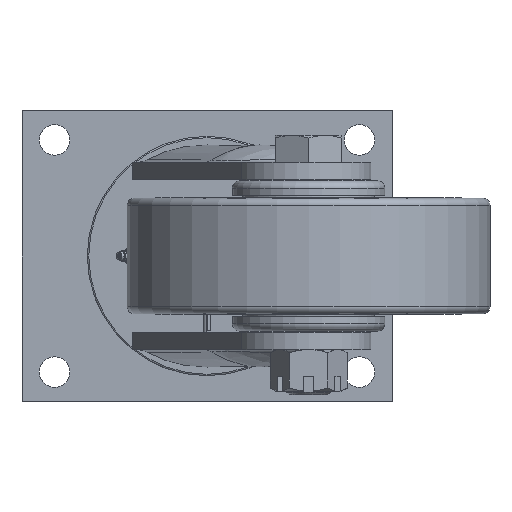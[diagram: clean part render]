
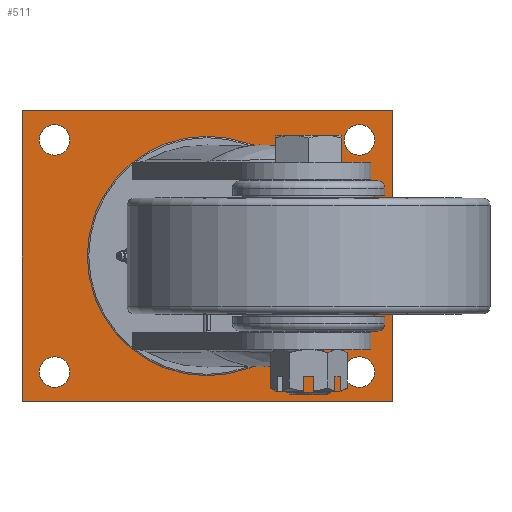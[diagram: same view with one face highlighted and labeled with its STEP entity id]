
A CAD part, front view. The second image highlights one B-rep face of the part: STEP entity #511.
In plain terms, the highlighted planar face has unit normal (0, -1, 0).
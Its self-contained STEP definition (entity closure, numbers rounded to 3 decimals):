
#118=CARTESIAN_POINT('',(0.,-20.,0.));
#119=DIRECTION('',(0.,-1.,0.));
#120=DIRECTION('',(1.,0.,0.));
#121=AXIS2_PLACEMENT_3D('',#118,#119,#120);
#123=CARTESIAN_POINT('',(0.,-20.,0.));
#124=DIRECTION('',(0.,-1.,0.));
#125=DIRECTION('',(-1.,0.,0.));
#126=AXIS2_PLACEMENT_3D('',#123,#124,#125);
#128=CARTESIAN_POINT('',(105.,-20.,80.));
#129=DIRECTION('',(0.,1.,0.));
#130=DIRECTION('',(-1.,0.,0.));
#131=AXIS2_PLACEMENT_3D('',#128,#129,#130);
#133=CARTESIAN_POINT('',(105.,-20.,80.));
#134=DIRECTION('',(0.,1.,0.));
#135=DIRECTION('',(1.,0.,0.));
#136=AXIS2_PLACEMENT_3D('',#133,#134,#135);
#138=CARTESIAN_POINT('',(105.,-20.,-80.));
#139=DIRECTION('',(0.,1.,0.));
#140=DIRECTION('',(-1.,0.,0.));
#141=AXIS2_PLACEMENT_3D('',#138,#139,#140);
#143=CARTESIAN_POINT('',(105.,-20.,-80.));
#144=DIRECTION('',(0.,1.,0.));
#145=DIRECTION('',(1.,0.,0.));
#146=AXIS2_PLACEMENT_3D('',#143,#144,#145);
#148=CARTESIAN_POINT('',(-105.,-20.,-80.));
#149=DIRECTION('',(0.,1.,0.));
#150=DIRECTION('',(-1.,0.,0.));
#151=AXIS2_PLACEMENT_3D('',#148,#149,#150);
#153=CARTESIAN_POINT('',(-105.,-20.,-80.));
#154=DIRECTION('',(0.,1.,0.));
#155=DIRECTION('',(1.,0.,0.));
#156=AXIS2_PLACEMENT_3D('',#153,#154,#155);
#158=CARTESIAN_POINT('',(-105.,-20.,80.));
#159=DIRECTION('',(0.,1.,0.));
#160=DIRECTION('',(-1.,0.,0.));
#161=AXIS2_PLACEMENT_3D('',#158,#159,#160);
#163=CARTESIAN_POINT('',(-105.,-20.,80.));
#164=DIRECTION('',(0.,1.,0.));
#165=DIRECTION('',(1.,0.,0.));
#166=AXIS2_PLACEMENT_3D('',#163,#164,#165);
#168=DIRECTION('',(-1.,0.,0.));
#169=VECTOR('',#168,255.);
#170=CARTESIAN_POINT('',(127.5,-20.,100.));
#171=LINE('',#170,#169);
#172=DIRECTION('',(0.,0.,1.));
#173=VECTOR('',#172,200.);
#174=CARTESIAN_POINT('',(127.5,-20.,-100.));
#175=LINE('',#174,#173);
#176=DIRECTION('',(1.,0.,0.));
#177=VECTOR('',#176,255.);
#178=CARTESIAN_POINT('',(-127.5,-20.,-100.));
#179=LINE('',#178,#177);
#180=DIRECTION('',(0.,0.,-1.));
#181=VECTOR('',#180,200.);
#182=CARTESIAN_POINT('',(-127.5,-20.,100.));
#183=LINE('',#182,#181);
#284=CARTESIAN_POINT('',(77.5,-20.,0.));
#285=CARTESIAN_POINT('',(-77.5,-20.,0.));
#286=VERTEX_POINT('',#284);
#287=VERTEX_POINT('',#285);
#312=CARTESIAN_POINT('',(94.5,-20.,80.));
#313=CARTESIAN_POINT('',(115.5,-20.,80.));
#314=VERTEX_POINT('',#312);
#315=VERTEX_POINT('',#313);
#316=CARTESIAN_POINT('',(94.5,-20.,-80.));
#317=CARTESIAN_POINT('',(115.5,-20.,-80.));
#318=VERTEX_POINT('',#316);
#319=VERTEX_POINT('',#317);
#320=CARTESIAN_POINT('',(-115.5,-20.,-80.));
#321=CARTESIAN_POINT('',(-94.5,-20.,-80.));
#322=VERTEX_POINT('',#320);
#323=VERTEX_POINT('',#321);
#324=CARTESIAN_POINT('',(-115.5,-20.,80.));
#325=CARTESIAN_POINT('',(-94.5,-20.,80.));
#326=VERTEX_POINT('',#324);
#327=VERTEX_POINT('',#325);
#328=CARTESIAN_POINT('',(127.5,-20.,100.));
#329=CARTESIAN_POINT('',(-127.5,-20.,100.));
#330=VERTEX_POINT('',#328);
#331=VERTEX_POINT('',#329);
#332=CARTESIAN_POINT('',(-127.5,-20.,-100.));
#333=VERTEX_POINT('',#332);
#334=CARTESIAN_POINT('',(127.5,-20.,-100.));
#335=VERTEX_POINT('',#334);
#466=CARTESIAN_POINT('',(0.,-20.,0.));
#467=DIRECTION('',(0.,-1.,0.));
#468=DIRECTION('',(-1.,0.,0.));
#469=AXIS2_PLACEMENT_3D('',#466,#467,#468);
#470=PLANE('',#469);
#472=ORIENTED_EDGE('',*,*,#471,.F.);
#474=ORIENTED_EDGE('',*,*,#473,.F.);
#476=ORIENTED_EDGE('',*,*,#475,.F.);
#478=ORIENTED_EDGE('',*,*,#477,.F.);
#479=EDGE_LOOP('',(#472,#474,#476,#478));
#480=FACE_OUTER_BOUND('',#479,.F.);
#482=ORIENTED_EDGE('',*,*,#481,.F.);
#484=ORIENTED_EDGE('',*,*,#483,.F.);
#485=EDGE_LOOP('',(#482,#484));
#486=FACE_BOUND('',#485,.F.);
#488=ORIENTED_EDGE('',*,*,#487,.F.);
#490=ORIENTED_EDGE('',*,*,#489,.F.);
#491=EDGE_LOOP('',(#488,#490));
#492=FACE_BOUND('',#491,.F.);
#494=ORIENTED_EDGE('',*,*,#493,.F.);
#496=ORIENTED_EDGE('',*,*,#495,.F.);
#497=EDGE_LOOP('',(#494,#496));
#498=FACE_BOUND('',#497,.F.);
#500=ORIENTED_EDGE('',*,*,#499,.F.);
#502=ORIENTED_EDGE('',*,*,#501,.F.);
#503=EDGE_LOOP('',(#500,#502));
#504=FACE_BOUND('',#503,.F.);
#506=ORIENTED_EDGE('',*,*,#505,.T.);
#508=ORIENTED_EDGE('',*,*,#507,.T.);
#509=EDGE_LOOP('',(#506,#508));
#510=FACE_BOUND('',#509,.F.);
#122=CIRCLE('',#121,77.5);
#127=CIRCLE('',#126,77.5);
#132=CIRCLE('',#131,10.5);
#137=CIRCLE('',#136,10.5);
#142=CIRCLE('',#141,10.5);
#147=CIRCLE('',#146,10.5);
#152=CIRCLE('',#151,10.5);
#157=CIRCLE('',#156,10.5);
#162=CIRCLE('',#161,10.5);
#167=CIRCLE('',#166,10.5);
#471=EDGE_CURVE('',#330,#331,#171,.T.);
#473=EDGE_CURVE('',#335,#330,#175,.T.);
#475=EDGE_CURVE('',#333,#335,#179,.T.);
#477=EDGE_CURVE('',#331,#333,#183,.T.);
#481=EDGE_CURVE('',#314,#315,#132,.T.);
#483=EDGE_CURVE('',#315,#314,#137,.T.);
#487=EDGE_CURVE('',#318,#319,#142,.T.);
#489=EDGE_CURVE('',#319,#318,#147,.T.);
#493=EDGE_CURVE('',#322,#323,#152,.T.);
#495=EDGE_CURVE('',#323,#322,#157,.T.);
#499=EDGE_CURVE('',#326,#327,#162,.T.);
#501=EDGE_CURVE('',#327,#326,#167,.T.);
#505=EDGE_CURVE('',#286,#287,#122,.T.);
#507=EDGE_CURVE('',#287,#286,#127,.T.);
#511=ADVANCED_FACE('',(#480,#486,#492,#498,#504,#510),#470,.T.);
